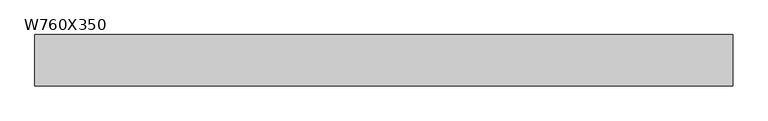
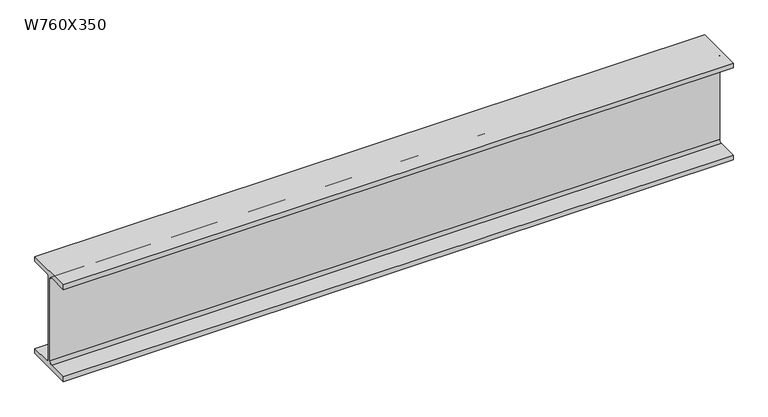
"""IFC4 building model written with IfcOpenShell, lengths in millimetres: beam geometry, M_W-Wide Flange : W760X350."""

from ifc_helpers import new_model, si_unit, point, frame, frame_2d, origin, place, context, project, spatial, polyline, circle_curve, trimmed, segment, composite_curve, outline, extrude, source, transform, mapped, element, save


def w760x350_c36f9bc7(model_context):
    return source(origin(), model_context, "Body", "SweptSolid", [
        extrude(outline(composite_curve([segment(polyline([(192.0, -359.4), (192.0, -397.5), (-192.0, -397.5), (-192.0, -359.4), (-32.75, -359.4)]), True, "CONTINUOUS"), segment(trimmed(circle_curve(frame_2d((-32.75, -337.2)), 22.2), [point((-32.75, -359.4))], [point((-10.55, -337.2))], True, "CARTESIAN"), True, "CONTINUOUS"), segment(polyline([(-10.55, -337.2), (-10.55, 337.2)]), True, "CONTINUOUS"), segment(trimmed(circle_curve(frame_2d((-32.75, 337.2)), 22.2), [point((-10.55, 337.2))], [point((-32.75, 359.4))], True, "CARTESIAN"), True, "CONTINUOUS"), segment(polyline([(-32.75, 359.4), (-192.0, 359.4), (-192.0, 397.5), (192.0, 397.5), (192.0, 359.4), (32.75, 359.4)]), True, "CONTINUOUS"), segment(trimmed(circle_curve(frame_2d((32.75, 337.2)), 22.2), [point((32.75, 359.4))], [point((10.55, 337.2))], True, "CARTESIAN"), True, "CONTINUOUS"), segment(polyline([(10.55, 337.2), (10.55, -337.2)]), True, "CONTINUOUS"), segment(trimmed(circle_curve(frame_2d((32.75, -337.2)), 22.2), [point((10.55, -337.2))], [point((32.75, -359.4))], True, "CARTESIAN"), True, "CONTINUOUS"), segment(polyline([(32.75, -359.4), (192.0, -359.4)]), True, "CONTINUOUS")], self_intersect=False)), frame((-2605.8, 0.0, 0.0), z_axis=(1.0, 0.0, 0.0), x_axis=(0.0, 1.0, 0.0)), (0.0, 0.0, 1.0), 5211.6),
    ])


if __name__ == "__main__":
    model = new_model("IFC4")
    model_context = context("Model", 3, world=origin())
    ifc_project = project(units=[si_unit("LENGTHUNIT", "METRE", prefix="MILLI")], contexts=[model_context])
    site = spatial("IfcSite", under=ifc_project)
    building = spatial("IfcBuilding", under=site)
    placement = place(None, origin())
    w760x350_shape = w760x350_c36f9bc7(model_context)
    element("IfcBeam", 1, ObjectType="M_W-Wide Flange : W760X350", at=placement, inside=building, context=model_context, shape_type="MappedRepresentation", body=[
        mapped(w760x350_shape, transform((0.0, 0.0, 0.0), x_axis=(1.0, 0.0, 0.0), y_axis=(0.0, 1.0, 0.0), z_axis=(0.0, 0.0, 1.0))),
    ])
    save(model, "model.ifc")
